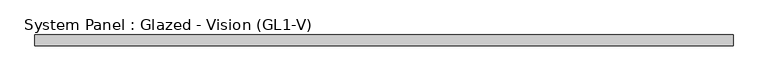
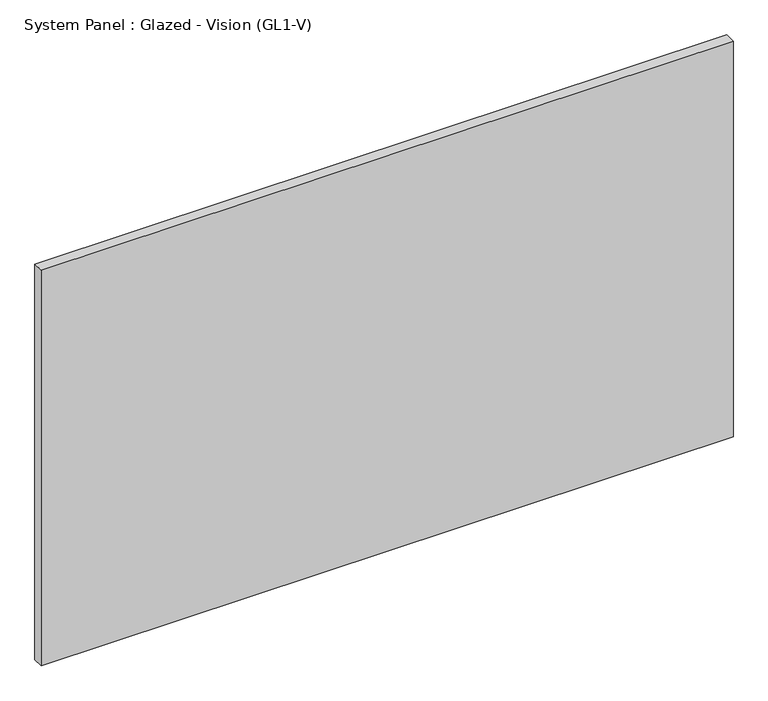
"""IFC4 building model written with IfcOpenShell, lengths in millimetres: plate geometry, System Panel : Glazed - Vision (GL1-V)."""

from ifc_helpers import new_model, si_unit, origin, origin_with_axes, place, context, project, spatial, polyline, outline, extrude, source, transform, mapped, element, save


def system_panel_glazed_vision_gl1_v_d0bc028c(model_context):
    return source(origin(), model_context, "Body", "SweptSolid", [
        extrude(outline(polyline([(813.9193889, -25.4), (-813.9193889, -25.4), (-813.9193889, 0.0), (813.9193889, 0.0), (813.9193889, -25.4)])), origin_with_axes(), (0.0, 0.0, 1.0), 984.25),
    ])


if __name__ == "__main__":
    model = new_model("IFC4")
    model_context = context("Model", 3, world=origin())
    ifc_project = project(units=[si_unit("LENGTHUNIT", "METRE", prefix="MILLI")], contexts=[model_context])
    site = spatial("IfcSite", under=ifc_project)
    building = spatial("IfcBuilding", under=site)
    placement = place(None, origin())
    system_panel_glazed_vision_gl1_v_shape = system_panel_glazed_vision_gl1_v_d0bc028c(model_context)
    element("IfcPlate", 1, ObjectType="System Panel : Glazed - Vision (GL1-V)", at=placement, inside=building, context=model_context, shape_type="MappedRepresentation", body=[
        mapped(system_panel_glazed_vision_gl1_v_shape, transform((0.0, 0.0, 0.0), x_axis=(1.0, 0.0, 0.0), y_axis=(0.0, 1.0, 0.0), z_axis=(0.0, 0.0, 1.0))),
    ])
    save(model, "model.ifc")
